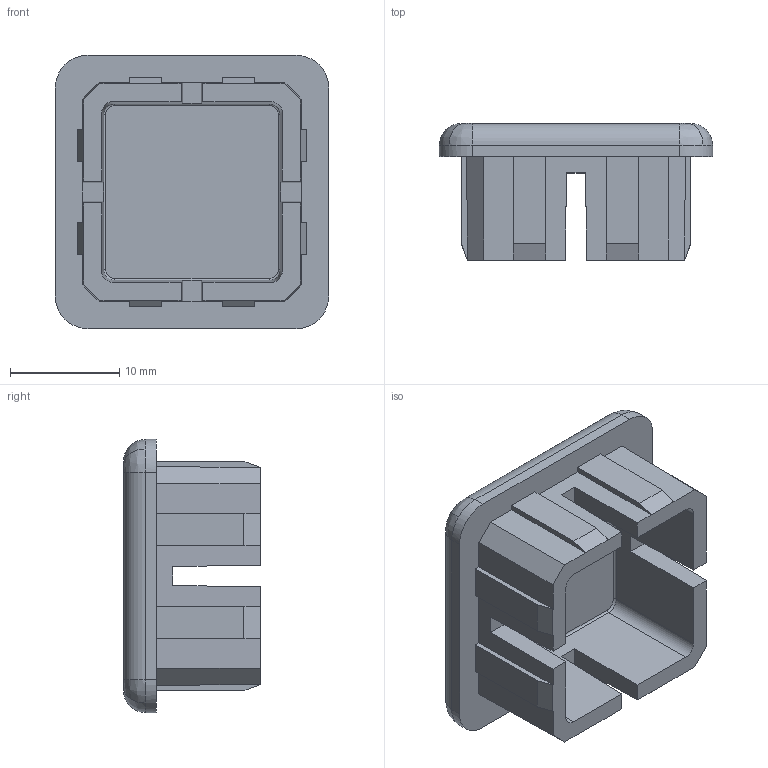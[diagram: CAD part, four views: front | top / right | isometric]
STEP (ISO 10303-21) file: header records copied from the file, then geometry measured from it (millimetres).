
FILE_DESCRIPTION (( 'STEP AP203' ), '1' );
FILE_NAME ('013.100.001.STEP', '2020-10-27T13:29:00', ( '' ), ( '' ), 'SwSTEP 2.0', 'SolidWorks 2018', '' );
FILE_SCHEMA (( 'CONFIG_CONTROL_DESIGN' ));
Length unit declared in the file: millimetre
Products named in the file (1): 013.100.001
Bounding box: 25 x 12.5 x 25 mm (x, y, z)
Volume: 2744.4 mm3; surface area: 2835.1 mm2
Topology: 1 solids, 1 shells, 128 faces, 340 edges, 216 vertices
Faces by surface type: plane 80, cylinder 28, bspline 20
Entity records: 4221 total; most frequent: CARTESIAN_POINT 1169, ORIENTED_EDGE 680, DIRECTION 546, EDGE_CURVE 340, VECTOR 256, LINE 256, VERTEX_POINT 216, AXIS2_PLACEMENT_3D 145
